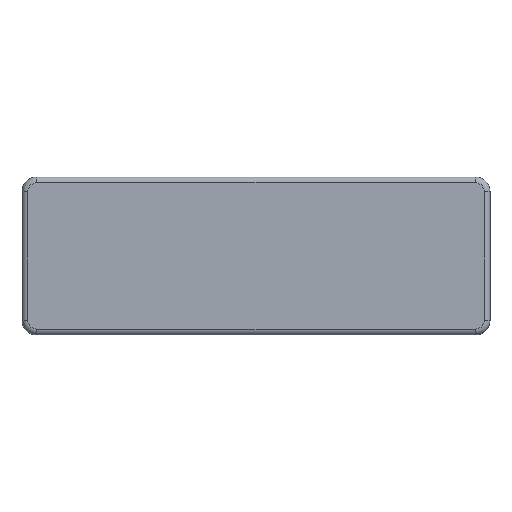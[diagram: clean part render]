
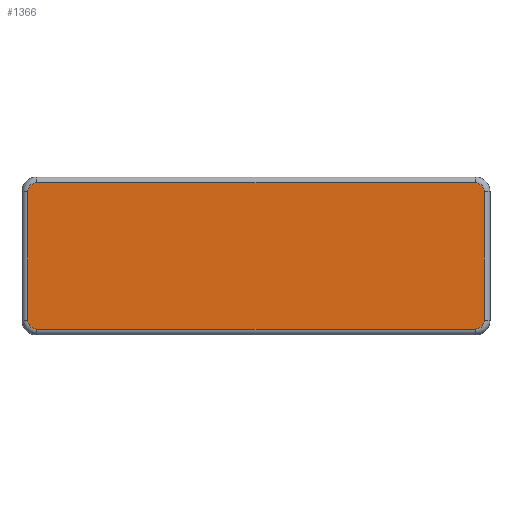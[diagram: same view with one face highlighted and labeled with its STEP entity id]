
A CAD part, top view. The second image highlights one B-rep face of the part: STEP entity #1366.
In plain terms, the highlighted planar face has unit normal (0, 0, 1).
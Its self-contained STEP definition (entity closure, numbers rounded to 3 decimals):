
#56 = CARTESIAN_POINT ( 'NONE',  ( 39., -11., 1.5 ) ) ;
#63 = EDGE_CURVE ( 'NONE', #2433, #757, #1088, .T. ) ;
#66 = LINE ( 'NONE', #79, #2154 ) ;
#79 = CARTESIAN_POINT ( 'NONE',  ( -39., 0., 1.5 ) ) ;
#120 = VERTEX_POINT ( 'NONE', #56 ) ;
#160 = CARTESIAN_POINT ( 'NONE',  ( -37.5, 11., 1.5 ) ) ;
#184 = DIRECTION ( 'NONE',  ( 0., 0., -1. ) ) ;
#311 = VERTEX_POINT ( 'NONE', #2396 ) ;
#374 = DIRECTION ( 'NONE',  ( -1., 0., 0. ) ) ;
#448 = DIRECTION ( 'NONE',  ( -1., 0., 0. ) ) ;
#485 = ORIENTED_EDGE ( 'NONE', *, *, #626, .T. ) ;
#583 = DIRECTION ( 'NONE',  ( 0., 0., 1. ) ) ;
#607 = VERTEX_POINT ( 'NONE', #682 ) ;
#626 = EDGE_CURVE ( 'NONE', #607, #2762, #2550, .T. ) ;
#677 = CARTESIAN_POINT ( 'NONE',  ( 0., -12.5, 1.5 ) ) ;
#682 = CARTESIAN_POINT ( 'NONE',  ( 39., 11., 1.5 ) ) ;
#697 = DIRECTION ( 'NONE',  ( 0., 0., 1. ) ) ;
#718 = ORIENTED_EDGE ( 'NONE', *, *, #63, .T. ) ;
#757 = VERTEX_POINT ( 'NONE', #820 ) ;
#772 = DIRECTION ( 'NONE',  ( 0., -1., 0. ) ) ;
#801 = CARTESIAN_POINT ( 'NONE',  ( 0., 12.5, 1.5 ) ) ;
#804 = ORIENTED_EDGE ( 'NONE', *, *, #1377, .T. ) ;
#820 = CARTESIAN_POINT ( 'NONE',  ( 37.5, -12.5, 1.5 ) ) ;
#922 = ORIENTED_EDGE ( 'NONE', *, *, #2327, .T. ) ;
#962 = CARTESIAN_POINT ( 'NONE',  ( -39., -11., 1.5 ) ) ;
#975 = EDGE_CURVE ( 'NONE', #120, #607, #1276, .T. ) ;
#1062 = CARTESIAN_POINT ( 'NONE',  ( -37.5, -12.5, 1.5 ) ) ;
#1086 = PLANE ( 'NONE',  #2738 ) ;
#1088 = LINE ( 'NONE', #677, #1716 ) ;
#1100 = VERTEX_POINT ( 'NONE', #962 ) ;
#1125 = ORIENTED_EDGE ( 'NONE', *, *, #975, .T. ) ;
#1276 = LINE ( 'NONE', #2820, #2052 ) ;
#1281 = EDGE_CURVE ( 'NONE', #1100, #2433, #2211, .T. ) ;
#1286 = CARTESIAN_POINT ( 'NONE',  ( 0., 0., 1.5 ) ) ;
#1334 = AXIS2_PLACEMENT_3D ( 'NONE', #1370, #697, #448 ) ;
#1362 = VERTEX_POINT ( 'NONE', #1721 ) ;
#1366 = ADVANCED_FACE ( 'NONE', ( #2635 ), #1086, .F. ) ;
#1370 = CARTESIAN_POINT ( 'NONE',  ( 37.5, -11., 1.5 ) ) ;
#1377 = EDGE_CURVE ( 'NONE', #2762, #311, #2827, .T. ) ;
#1463 = AXIS2_PLACEMENT_3D ( 'NONE', #160, #2377, #2834 ) ;
#1506 = DIRECTION ( 'NONE',  ( -1., 0., 0. ) ) ;
#1587 = DIRECTION ( 'NONE',  ( 0., 0., 1. ) ) ;
#1616 = CIRCLE ( 'NONE', #1334, 1.5 ) ;
#1692 = CIRCLE ( 'NONE', #1463, 1.5 ) ;
#1716 = VECTOR ( 'NONE', #2690, 1000. ) ;
#1721 = CARTESIAN_POINT ( 'NONE',  ( -39., 11., 1.5 ) ) ;
#1730 = CARTESIAN_POINT ( 'NONE',  ( 37.5, 12.5, 1.5 ) ) ;
#1781 = AXIS2_PLACEMENT_3D ( 'NONE', #2469, #1587, #2015 ) ;
#1839 = ORIENTED_EDGE ( 'NONE', *, *, #1281, .T. ) ;
#2015 = DIRECTION ( 'NONE',  ( -1., 0., 0. ) ) ;
#2024 = VECTOR ( 'NONE', #2157, 1000. ) ;
#2052 = VECTOR ( 'NONE', #2347, 1000. ) ;
#2154 = VECTOR ( 'NONE', #772, 1000. ) ;
#2157 = DIRECTION ( 'NONE',  ( -1., 0., 0. ) ) ;
#2211 = CIRCLE ( 'NONE', #2825, 1.5 ) ;
#2314 = ORIENTED_EDGE ( 'NONE', *, *, #2523, .T. ) ;
#2327 = EDGE_CURVE ( 'NONE', #1362, #1100, #66, .T. ) ;
#2347 = DIRECTION ( 'NONE',  ( 0., 1., 0. ) ) ;
#2377 = DIRECTION ( 'NONE',  ( 0., 0., 1. ) ) ;
#2380 = CARTESIAN_POINT ( 'NONE',  ( -37.5, -11., 1.5 ) ) ;
#2396 = CARTESIAN_POINT ( 'NONE',  ( -37.5, 12.5, 1.5 ) ) ;
#2422 = EDGE_CURVE ( 'NONE', #311, #1362, #1692, .T. ) ;
#2433 = VERTEX_POINT ( 'NONE', #1062 ) ;
#2469 = CARTESIAN_POINT ( 'NONE',  ( 37.5, 11., 1.5 ) ) ;
#2523 = EDGE_CURVE ( 'NONE', #757, #120, #1616, .T. ) ;
#2549 = ORIENTED_EDGE ( 'NONE', *, *, #2422, .T. ) ;
#2550 = CIRCLE ( 'NONE', #1781, 1.5 ) ;
#2635 = FACE_OUTER_BOUND ( 'NONE', #2650, .T. ) ;
#2650 = EDGE_LOOP ( 'NONE', ( #922, #1839, #718, #2314, #1125, #485, #804, #2549 ) ) ;
#2690 = DIRECTION ( 'NONE',  ( 1., 0., 0. ) ) ;
#2738 = AXIS2_PLACEMENT_3D ( 'NONE', #1286, #184, #1506 ) ;
#2762 = VERTEX_POINT ( 'NONE', #1730 ) ;
#2820 = CARTESIAN_POINT ( 'NONE',  ( 39., 0., 1.5 ) ) ;
#2825 = AXIS2_PLACEMENT_3D ( 'NONE', #2380, #583, #374 ) ;
#2827 = LINE ( 'NONE', #801, #2024 ) ;
#2834 = DIRECTION ( 'NONE',  ( -1., 0., 0. ) ) ;
